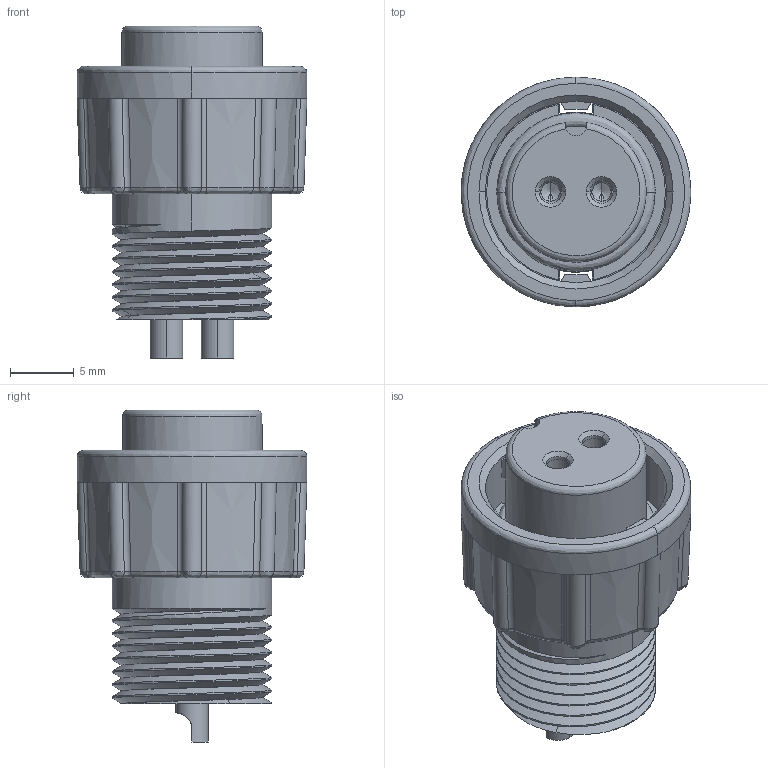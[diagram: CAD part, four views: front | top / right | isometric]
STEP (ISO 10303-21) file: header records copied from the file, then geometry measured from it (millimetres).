
FILE_DESCRIPTION (( 'STEP AP203' ), '1' );
FILE_NAME ('868-02A-203R001.STEP', '2024-06-13T19:58:36', ( '' ), ( '' ), 'SwSTEP 2.0', 'SolidWorks 2020', '' );
FILE_SCHEMA (( 'CONFIG_CONTROL_DESIGN' ));
Length unit declared in the file: millimetre
Products named in the file (1): 868-02A-203R001
Bounding box: 18 x 18 x 26 mm (x, y, z)
Volume: 3096 mm3; surface area: 3325.3 mm2
Topology: 1 solids, 1 shells, 239 faces, 616 edges, 381 vertices
Faces by surface type: cylinder 85, plane 63, bspline 48, cone 43
Entity records: 17826 total; most frequent: CARTESIAN_POINT 12685, ORIENTED_EDGE 1216, DIRECTION 845, EDGE_CURVE 608, VERTEX_POINT 381, AXIS2_PLACEMENT_3D 348, B_SPLINE_CURVE_WITH_KNOTS 259, EDGE_LOOP 253
